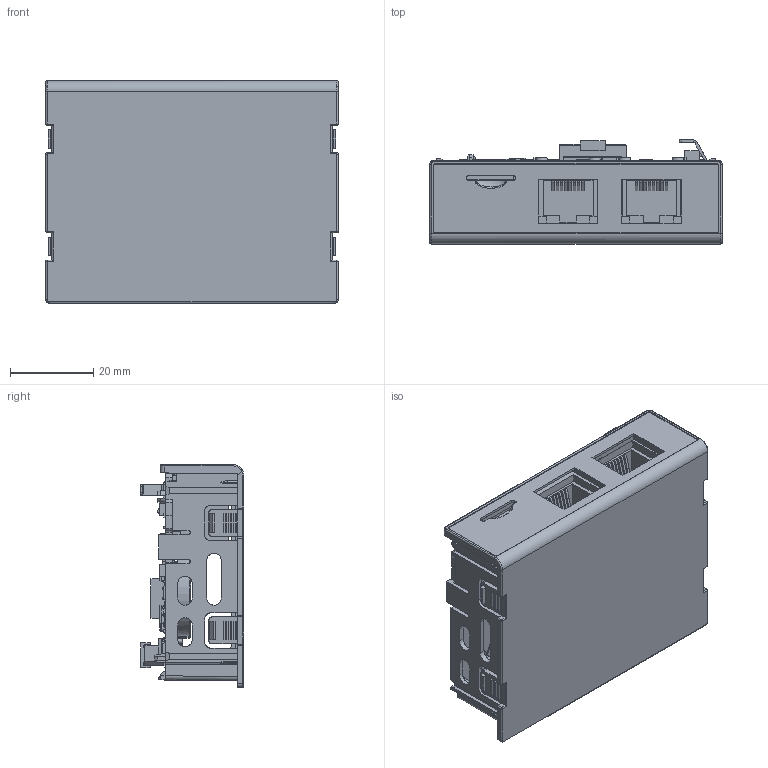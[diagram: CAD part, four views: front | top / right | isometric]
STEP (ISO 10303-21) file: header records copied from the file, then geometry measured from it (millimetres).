
FILE_DESCRIPTION((''),'2;1');
FILE_NAME('TS600-KZK-T3_ASM','2025-08-18T16:42:36',('Administrator'),(''),'CREO PARAMETRIC BY PTC INC, 2019080','CREO PARAMETRIC BY PTC INC, 2019080','');
FILE_SCHEMA(('CONFIG_CONTROL_DESIGN'));
Length unit declared in the file: millimetre
Products named in the file (29): 80740379; 17003-05686; E-SP-SMD32; E-SPW4-50-280; E-SPSW3-100R; E-SP-SMD45; E-SC0402; E-SOT23; E-SF3518; E-SR0402; E-SOP8-50-300C-HHH; E-SX2-3215; E-SOT23-6L-HHH; E-SC0603; E-JK2; E-SOT23-6; E-SR0603; E-SOP8-50-157; E-DIN0217-0_8MM-TF; E-SD8-14_75X14_5X2; E-BAT2-R20MM-B; E-MJ0204-100TA; E-ST4-88-48; E-SR1206; E-SR1210; E-SC1206; 17003-05686_ASM; TS600-5-1; TS600-KZK-T3_ASM
Assembly tree (101 placements, depth 3):
  TS600-KZK-T3_ASM
    80740379
    17003-05686_ASM
      17003-05686
      E-SP-SMD32  x26
      E-SPW4-50-280
      E-SPSW3-100R
      E-SP-SMD45  x3
      E-SC0402  x21
      E-SOT23  x4
      E-SF3518  x2
      E-SR0402  x16
      E-SOP8-50-300C-HHH
      E-SX2-3215
      E-SOT23-6L-HHH  x4
      E-SC0603  x3
      E-JK2
      E-SOT23-6
      E-SR0603
      E-SOP8-50-157
      E-DIN0217-0_8MM-TF
      E-SD8-14_75X14_5X2
      E-BAT2-R20MM-B
      E-MJ0204-100TA  x2
      E-ST4-88-48
      E-SR1206
      E-SR1210  x2
      E-SC1206
    TS600-5-1
Bounding box: 70.2 x 24.9 x 53.44 mm (x, y, z)
Volume: 25352.3 mm3; surface area: 34996.4 mm2
Topology: 100 solids, 102 shells, 6026 faces, 15847 edges, 10217 vertices
Faces by surface type: plane 4169, cylinder 1606, sphere 208, bspline 24, cone 14, torus 2, extrusion 2, revolution 1
Entity records: 142626 total; most frequent: CARTESIAN_POINT 29368, ORIENTED_EDGE 24016, DIRECTION 22643, EDGE_CURVE 12008, VECTOR 9784, LINE 9782, VERTEX_POINT 7843, AXIS2_PLACEMENT_3D 6429
